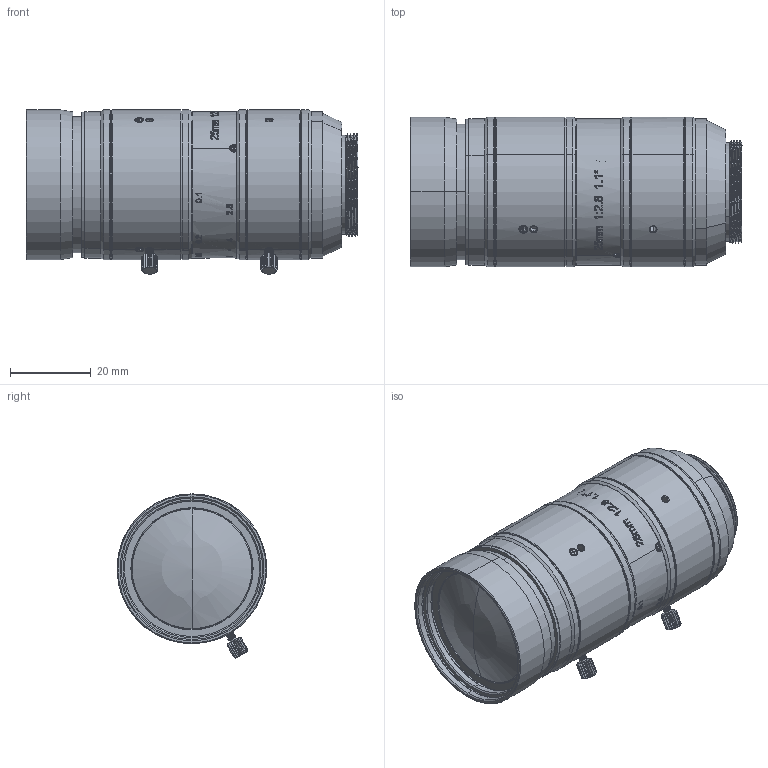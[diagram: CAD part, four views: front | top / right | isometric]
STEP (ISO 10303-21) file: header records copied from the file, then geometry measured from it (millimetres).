
FILE_DESCRIPTION((''),'2;1');
FILE_NAME('KF25MM-12MPE_ASM','2020-11-26T11:37:10',('dihaoping'),(''),'CREO PARAMETRIC BY PTC INC, 2017260','CREO PARAMETRIC BY PTC INC, 2017260','');
FILE_SCHEMA(('CONFIG_CONTROL_DESIGN'));
Length unit declared in the file: millimetre
Products named in the file (25): MSBR-83; MSBR-82; MSBR-81; MSBR-80; MSBR-79; MSBR-78; MSBR-77; MSBR-70; MSBR-69; MSBR-29; MSBR-28; MSBR-26; MSBR-20_1_2_3; MSBR-19_1_2; MSBR-18_1_2; MSBR-17_1_2; MSBR-16; MSBR-15_1_2_3; MSBR-7; MSBR-6_1; MSBR-5_1_2_3_4_5; MSBR-4_1_2_3_4_5; MSBR-2_1_2_3_4_5; KF25MM-12MPE_ASM_ASM; KF25MM-12MPE_ASM
Assembly tree (24 placements, depth 3):
  KF25MM-12MPE_ASM
    KF25MM-12MPE_ASM_ASM
      MSBR-83
      MSBR-82
      MSBR-81
      MSBR-80
      MSBR-79
      MSBR-78
      MSBR-77
      MSBR-70
      MSBR-69
      MSBR-29
      MSBR-28
      MSBR-26
      MSBR-20_1_2_3
      MSBR-19_1_2
      MSBR-18_1_2
      MSBR-17_1_2
      MSBR-16
      MSBR-15_1_2_3
      MSBR-7
      MSBR-6_1
      MSBR-5_1_2_3_4_5
      MSBR-4_1_2_3_4_5
      MSBR-2_1_2_3_4_5
Bounding box: 82.03 x 37 x 40.57 mm (x, y, z)
Volume: 37270 mm3; surface area: 37730.3 mm2
Topology: 22 solids, 22 shells, 2332 faces, 6202 edges, 4055 vertices
Faces by surface type: bspline 938, plane 570, cylinder 478, cone 288, torus 32, extrusion 14, sphere 12
Entity records: 125421 total; most frequent: CARTESIAN_POINT 73057, ORIENTED_EDGE 12380, DIRECTION 8103, EDGE_CURVE 6190, VERTEX_POINT 4055, AXIS2_PLACEMENT_3D 2876, EDGE_LOOP 2551, B_SPLINE_CURVE_WITH_KNOTS 2443
